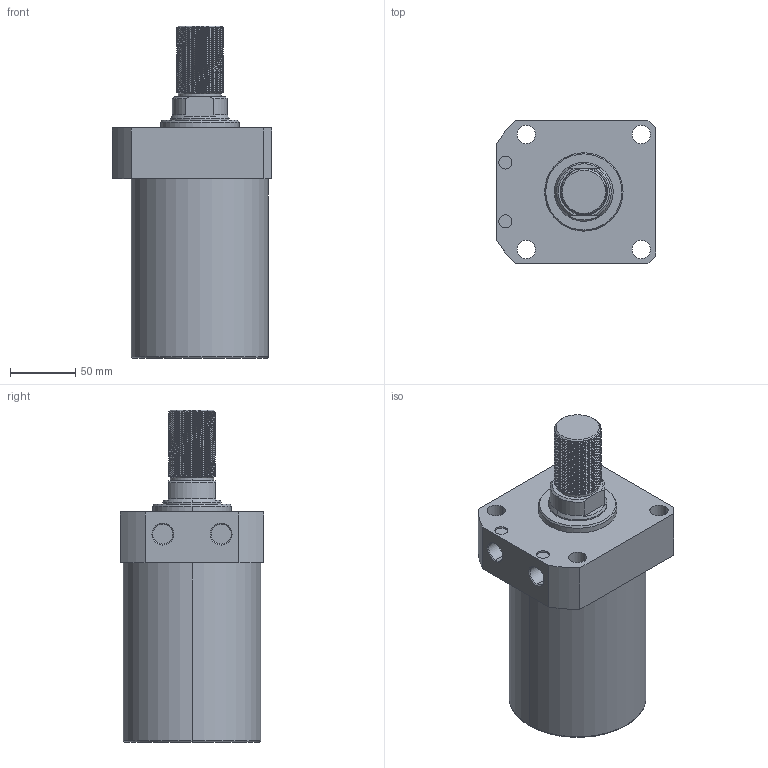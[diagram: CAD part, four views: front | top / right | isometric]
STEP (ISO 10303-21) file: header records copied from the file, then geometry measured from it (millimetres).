
FILE_DESCRIPTION (( 'STEP AP214' ), '1' );
FILE_NAME ('CLLR-105CT-090.STEP', '2020-01-10T03:02:27', ( 'Windows' ), ( 'Microsoft' ), 'SwSTEP 2.0', 'SolidWorks 2015', '' );
FILE_SCHEMA (( 'AUTOMOTIVE_DESIGN' ));
Length unit declared in the file: millimetre
Products named in the file (1): CLLR-105CT-090
Bounding box: 122 x 110 x 254 mm (x, y, z)
Volume: 1758994.6 mm3; surface area: 109187.1 mm2
Topology: 1 solids, 1 shells, 137 faces, 366 edges, 239 vertices
Faces by surface type: cylinder 96, plane 20, cone 17, torus 2, bspline 2
Entity records: 7972 total; most frequent: CARTESIAN_POINT 4823, ORIENTED_EDGE 732, DIRECTION 568, EDGE_CURVE 366, VERTEX_POINT 239, AXIS2_PLACEMENT_3D 217, EDGE_LOOP 153, ADVANCED_FACE 137
